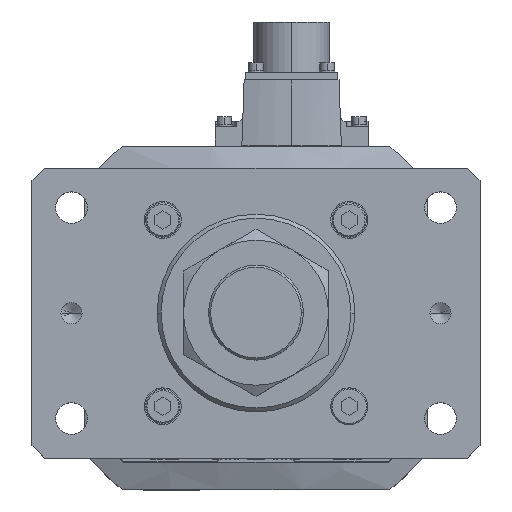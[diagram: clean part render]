
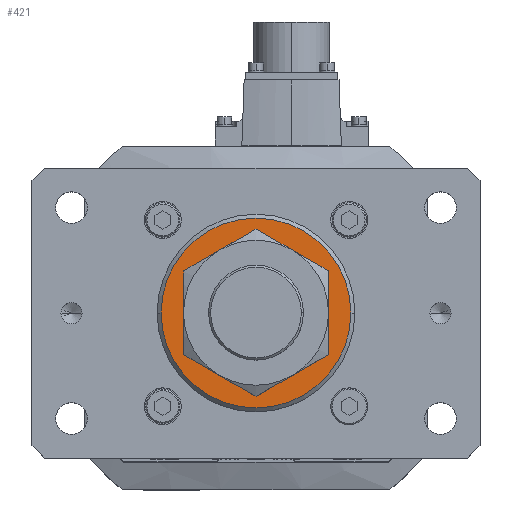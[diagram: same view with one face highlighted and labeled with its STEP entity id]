
A CAD part, top view. The second image highlights one B-rep face of the part: STEP entity #421.
In plain terms, the highlighted planar face has unit normal (0, 0, 1).
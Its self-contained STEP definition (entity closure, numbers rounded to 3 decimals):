
#246 = ORIENTED_EDGE ( 'NONE', *, *, #13022, .T. ) ;
#391 = CIRCLE ( 'NONE', #8575, 36. ) ;
#421 = ADVANCED_FACE ( 'NONE', ( #5752, #6643 ), #32931, .T. ) ;
#615 = CIRCLE ( 'NONE', #17979, 23. ) ;
#878 = CARTESIAN_POINT ( 'NONE',  ( 0., 0., 846. ) ) ;
#3931 = CARTESIAN_POINT ( 'NONE',  ( 0., 0., 846. ) ) ;
#4050 = DIRECTION ( 'NONE',  ( 0., 0., 1. ) ) ;
#4176 = DIRECTION ( 'NONE',  ( 0., 0., 1. ) ) ;
#5310 = ORIENTED_EDGE ( 'NONE', *, *, #8886, .T. ) ;
#5752 = FACE_BOUND ( 'NONE', #19035, .T. ) ;
#5757 = EDGE_LOOP ( 'NONE', ( #5310, #23070 ) ) ;
#6643 = FACE_OUTER_BOUND ( 'NONE', #5757, .T. ) ;
#8575 = AXIS2_PLACEMENT_3D ( 'NONE', #31884, #26285, #14734 ) ;
#8886 = EDGE_CURVE ( 'NONE', #9800, #35107, #31596, .T. ) ;
#9800 = VERTEX_POINT ( 'NONE', #17473 ) ;
#10229 = VERTEX_POINT ( 'NONE', #32438 ) ;
#13022 = EDGE_CURVE ( 'NONE', #10229, #15152, #25132, .T. ) ;
#14284 = EDGE_CURVE ( 'NONE', #35107, #9800, #391, .T. ) ;
#14734 = DIRECTION ( 'NONE',  ( 1., 0., 0. ) ) ;
#15152 = VERTEX_POINT ( 'NONE', #21225 ) ;
#17473 = CARTESIAN_POINT ( 'NONE',  ( -36., 0., 846. ) ) ;
#17979 = AXIS2_PLACEMENT_3D ( 'NONE', #36417, #30809, #27703 ) ;
#19035 = EDGE_LOOP ( 'NONE', ( #246, #33884 ) ) ;
#20400 = CARTESIAN_POINT ( 'NONE',  ( 36., 0., 846. ) ) ;
#21225 = CARTESIAN_POINT ( 'NONE',  ( -23., 0., 846. ) ) ;
#21459 = DIRECTION ( 'NONE',  ( 1., 0., 0. ) ) ;
#23070 = ORIENTED_EDGE ( 'NONE', *, *, #14284, .T. ) ;
#23837 = DIRECTION ( 'NONE',  ( 1., 0., 0. ) ) ;
#24902 = EDGE_CURVE ( 'NONE', #15152, #10229, #615, .T. ) ;
#24996 = AXIS2_PLACEMENT_3D ( 'NONE', #3931, #4050, #23837 ) ;
#25132 = CIRCLE ( 'NONE', #26995, 23. ) ;
#26285 = DIRECTION ( 'NONE',  ( 0., 0., 1. ) ) ;
#26647 = DIRECTION ( 'NONE',  ( 0., 0., -1. ) ) ;
#26995 = AXIS2_PLACEMENT_3D ( 'NONE', #878, #26647, #29509 ) ;
#27703 = DIRECTION ( 'NONE',  ( 1., 0., 0. ) ) ;
#28308 = AXIS2_PLACEMENT_3D ( 'NONE', #35435, #4176, #21459 ) ;
#29509 = DIRECTION ( 'NONE',  ( 1., 0., 0. ) ) ;
#30809 = DIRECTION ( 'NONE',  ( 0., 0., -1. ) ) ;
#31596 = CIRCLE ( 'NONE', #28308, 36. ) ;
#31884 = CARTESIAN_POINT ( 'NONE',  ( 0., 0., 846. ) ) ;
#32438 = CARTESIAN_POINT ( 'NONE',  ( 23., 0., 846. ) ) ;
#32931 = PLANE ( 'NONE',  #24996 ) ;
#33884 = ORIENTED_EDGE ( 'NONE', *, *, #24902, .T. ) ;
#35107 = VERTEX_POINT ( 'NONE', #20400 ) ;
#35435 = CARTESIAN_POINT ( 'NONE',  ( 0., 0., 846. ) ) ;
#36417 = CARTESIAN_POINT ( 'NONE',  ( 0., 0., 846. ) ) ;
